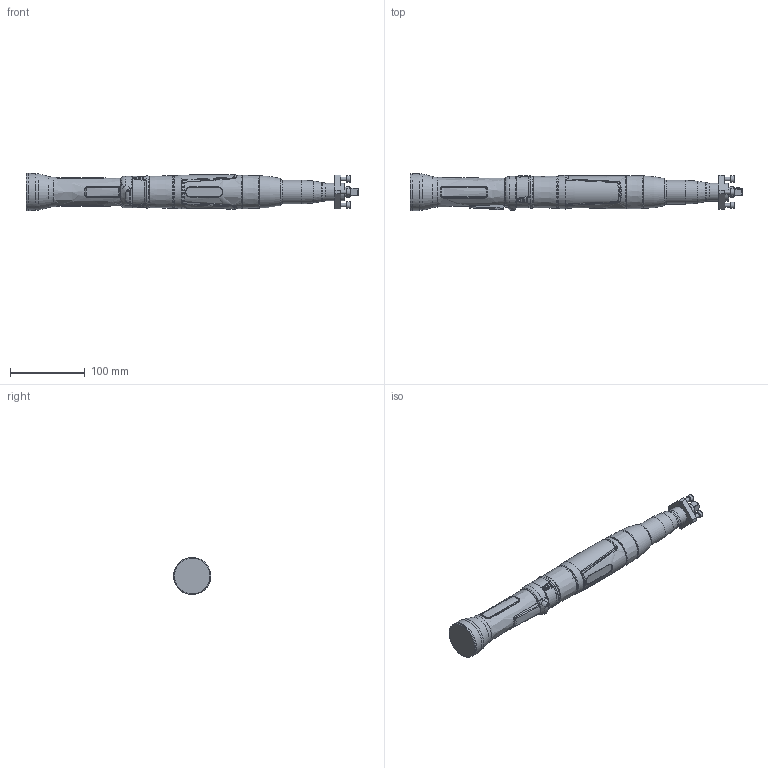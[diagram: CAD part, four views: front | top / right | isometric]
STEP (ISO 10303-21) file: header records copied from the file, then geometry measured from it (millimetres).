
FILE_DESCRIPTION (( 'STEP AP214' ), '1' );
FILE_NAME ('70058347_HSX1030ZV38.STEP', '2016-11-17T07:36:29', ( 'admin' ), ( '' ), 'SwSTEP 2.0', 'SolidWorks 2014', '' );
FILE_SCHEMA (( 'AUTOMOTIVE_DESIGN' ));
Length unit declared in the file: millimetre
Products named in the file (1): 70058347_HSX1030ZV38
Bounding box: 443.1 x 50.42 x 49.5 mm (x, y, z)
Volume: 486233.3 mm3; surface area: 79992.7 mm2
Topology: 4 solids, 4 shells, 976 faces, 2370 edges, 1398 vertices
Faces by surface type: bspline 338, cylinder 237, plane 197, torus 134, cone 42, sphere 28
Full cylindrical faces by diameter (mm): 1.7 x2, 3.8 x1, 4 x1, 5 x4, 8.5 x4, 14 x1, 24 x2, 31.7 x1, 38 x1, 39 x1, 39.5 x1, 40.5 x1, 42 x2, 43.3 x1, 43.5 x1, 49.5 x1
Entity records: 42066 total; most frequent: CARTESIAN_POINT 19950, ORIENTED_EDGE 4428, DIRECTION 3464, EDGE_CURVE 2214, AXIS2_PLACEMENT_3D 1455, VERTEX_POINT 1358, EDGE_LOOP 1104, FACE_OUTER_BOUND 1041
